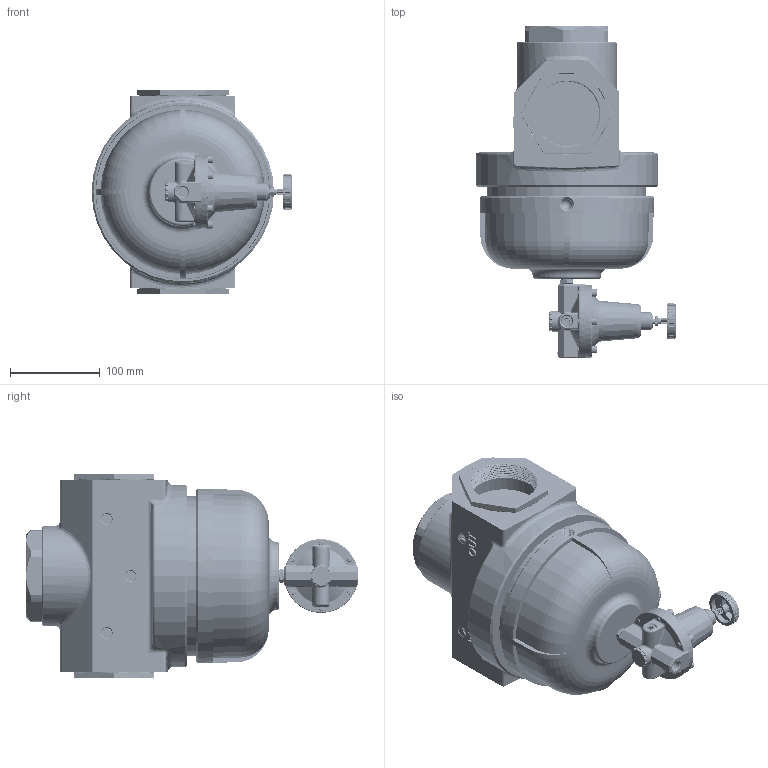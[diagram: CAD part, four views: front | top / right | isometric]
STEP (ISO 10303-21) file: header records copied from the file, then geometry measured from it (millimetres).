
FILE_DESCRIPTION(/* description */ (''),/* implementation_level */ '2;1');
FILE_NAME(/* name */ 'B-R119-20B_01.step',/* time_stamp */ '2025-09-01T14:45:01+02:00',/* author */ (''),/* organization */ (''),/* preprocessor_version */ 'ST-DEVELOPER v20.1',/* originating_system */ 'Autodesk Translation Framework v14.10.0.0',/* authorisation */ '');
FILE_SCHEMA (('AUTOMOTIVE_DESIGN { 1 0 10303 214 3 1 1 }'));
Products named in the file (4): Unbenannt; doppelnippel-1-4 v2; Bauteil2; B-VSK-2420
Assembly tree (4 placements, depth 2):
  Unbenannt
    doppelnippel-1-4 v2
    Bauteil2
    B-VSK-2420  x2
Bounding box: 223.76 x 369.92 x 228.36 mm (x, y, z)
Volume: 6291575.8 mm3; surface area: 408559.1 mm2
Topology: 6 solids, 6 shells, 1342 faces, 3740 edges, 2435 vertices
Faces by surface type: cylinder 416, plane 412, bspline 231, torus 114, cone 96, sphere 73
Full cylindrical faces by diameter (mm): 2.95 x1, 5 x6, 5.1 x1, 5.5 x1, 6 x1, 7 x1, 8 x1, 8.5 x6, 11.445 x3, 11.668 x1, 12 x1, 13.157 x67, 14.5 x1, 20 x1, 23 x1, 38.7 x1, 75.184 x14, 81 x2, 82 x1, 84.926 x24, 87.884 x22, 88.768 x2, 111.76 x1, 203.2 x1
Entity records: 126103 total; most frequent: CARTESIAN_POINT 95029, ORIENTED_EDGE 7018, DIRECTION 5410, EDGE_CURVE 3509, VERTEX_POINT 2313, AXIS2_PLACEMENT_3D 2082, EDGE_LOOP 1316, FACE_OUTER_BOUND 1259
